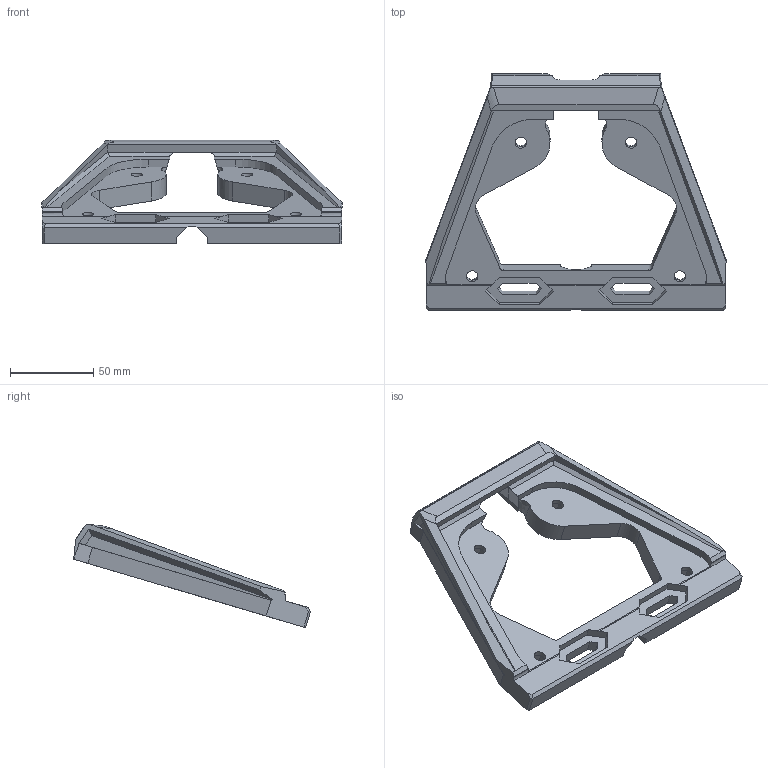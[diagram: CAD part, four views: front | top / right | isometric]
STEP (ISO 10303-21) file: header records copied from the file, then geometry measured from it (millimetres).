
FILE_DESCRIPTION(/* description */ (''),/* implementation_level */ '2;1');
FILE_NAME(/* name */ 'starlink kickstand.step',/* time_stamp */ '2024-06-13T23:17:00+10:00',/* author */ (''),/* organization */ (''),/* preprocessor_version */ 'ST-DEVELOPER v20',/* originating_system */ 'Autodesk Translation Framework v13.14.0.145',/* authorisation */ '');
FILE_SCHEMA (('AUTOMOTIVE_DESIGN { 1 0 10303 214 3 1 1 }'));
Length unit declared in the file: millimetre
Products named in the file (1): starlink pole adaptor v1
Bounding box: 180.28 x 142.23 x 62.09 mm (x, y, z)
Volume: 174855.2 mm3; surface area: 46664.9 mm2
Topology: 1 solids, 1 shells, 185 faces, 509 edges, 328 vertices
Faces by surface type: plane 159, cylinder 22, bspline 4
Full cylindrical faces by diameter (mm): 7 x4
Entity records: 6081 total; most frequent: CARTESIAN_POINT 1302, ORIENTED_EDGE 1018, DIRECTION 927, EDGE_CURVE 509, LINE 435, VECTOR 435, VERTEX_POINT 328, AXIS2_PLACEMENT_3D 246
